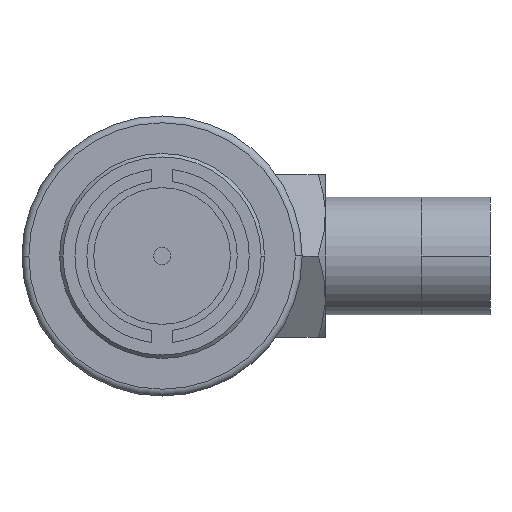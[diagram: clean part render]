
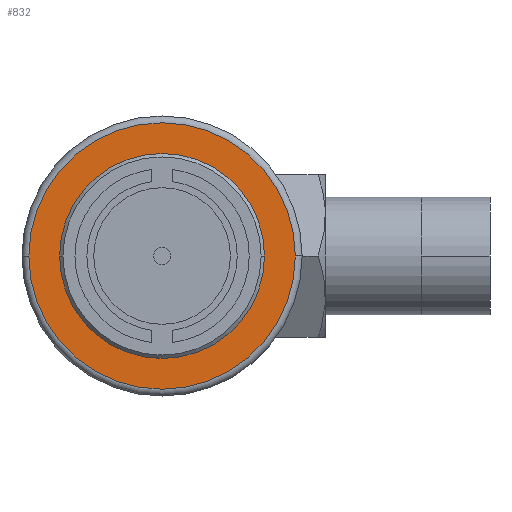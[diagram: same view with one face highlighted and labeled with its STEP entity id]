
A CAD part, front view. The second image highlights one B-rep face of the part: STEP entity #832.
In plain terms, the highlighted planar face has unit normal (0, -1, 0).
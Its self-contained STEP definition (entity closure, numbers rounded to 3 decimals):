
#689=CARTESIAN_POINT('',(19.5,-73.0,0.));
#690=VERTEX_POINT('',#689);
#698=CARTESIAN_POINT('',(-19.5,-73.0,0.));
#699=VERTEX_POINT('',#698);
#700=CARTESIAN_POINT('',(0.,-73.0,0.));
#701=DIRECTION('',(0.0,1.0,0.0));
#702=DIRECTION('',(-1.0,0.0,0.0));
#703=AXIS2_PLACEMENT_3D('',#700,#701,#702);
#704=CIRCLE('',#703,19.5);
#705=EDGE_CURVE('',#690,#699,#704,.T.);
#730=CARTESIAN_POINT('',(0.,-73.0,0.));
#731=DIRECTION('',(0.0,1.0,0.0));
#732=DIRECTION('',(-1.0,0.0,0.0));
#733=AXIS2_PLACEMENT_3D('',#730,#731,#732);
#734=CIRCLE('',#733,19.5);
#735=EDGE_CURVE('',#699,#690,#734,.T.);
#823=CARTESIAN_POINT('',(-9.75,-73.0,0.));
#824=DIRECTION('',(0.0,-1.0,0.0));
#825=DIRECTION('',(1.0,0.0,0.0));
#826=AXIS2_PLACEMENT_3D('',#823,#824,#825);
#827=PLANE('',#826);
#828=ORIENTED_EDGE('',*,*,#735,.F.);
#829=ORIENTED_EDGE('',*,*,#705,.F.);
#830=EDGE_LOOP('',(#828,#829));
#831=FACE_OUTER_BOUND('',#830,.T.);
#832=ADVANCED_FACE('',(#831),#827,.T.);
